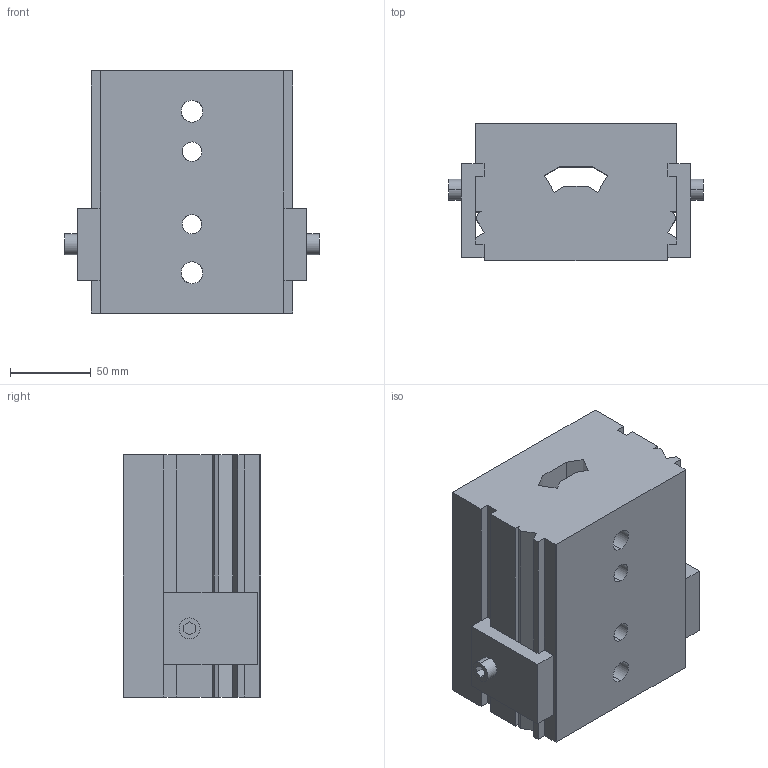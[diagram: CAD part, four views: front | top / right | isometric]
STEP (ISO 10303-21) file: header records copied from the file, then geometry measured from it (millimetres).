
FILE_DESCRIPTION(('CATIA V5 STEP Exchange'),'2;1');
FILE_NAME('C:\Users\Raffaele\Desktop\3D X SITO CF\A945-01\GSB_OILLESS_G24501121501BC\A945-01-1215-01-S-BC.stp','2019-07-10T14:21:26+00:00',('none'),('none'),'CATIA Version 5 Release 20 GA (IN-10)','CATIA V5 STEP AP203','none');
FILE_SCHEMA(('CONFIG_CONTROL_DESIGN'));
Length unit declared in the file: millimetre
Products named in the file (1): A945-01-1215-01-S-BC
Bounding box: 158 x 85 x 150 mm (x, y, z)
Volume: 1503809.5 mm3; surface area: 119559.8 mm2
Topology: 1 solids, 1 shells, 100 faces, 322 edges, 224 vertices
Faces by surface type: plane 80, cylinder 20
Entity records: 3788 total; most frequent: CARTESIAN_POINT 871, ORIENTED_EDGE 644, DIRECTION 506, EDGE_CURVE 322, VECTOR 242, LINE 242, VERTEX_POINT 224, AXIS2_PLACEMENT_3D 165
